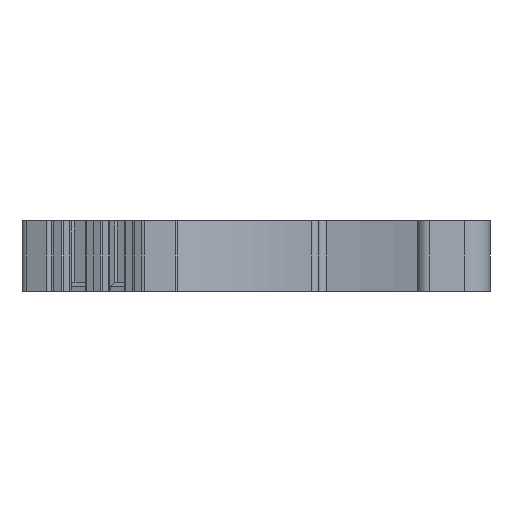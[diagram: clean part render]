
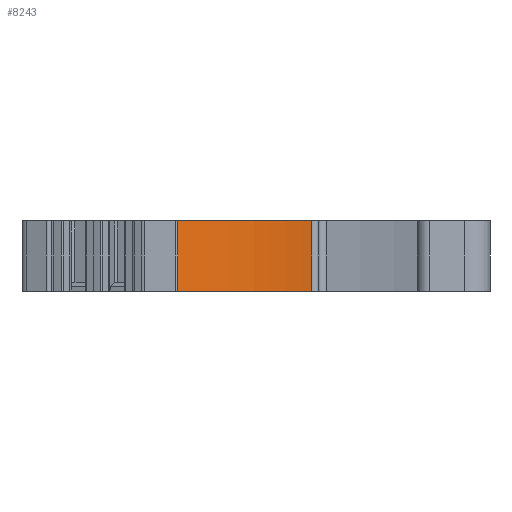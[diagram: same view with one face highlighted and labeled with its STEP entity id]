
A CAD part, left-side view. The second image highlights one B-rep face of the part: STEP entity #8243.
In plain terms, the highlighted cylindrical face has radius 20 mm (diameter 40 mm), a partial arc.
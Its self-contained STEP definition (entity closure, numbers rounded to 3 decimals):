
#1840=CARTESIAN_POINT('Vertex',(-44.699,6.233,0.)) ;
#1843=CARTESIAN_POINT('Axis2P3D Location',(-64.655,7.553,0.)) ;
#1847=CARTESIAN_POINT('Vertex',(-44.664,6.95,0.)) ;
#1850=CARTESIAN_POINT('Axis2P3D Location',(-64.655,7.553,0.)) ;
#1854=CARTESIAN_POINT('Vertex',(-44.866,10.45,0.)) ;
#1857=CARTESIAN_POINT('Axis2P3D Location',(-64.655,7.553,0.)) ;
#1861=CARTESIAN_POINT('Vertex',(-46.504,15.951,0.)) ;
#3444=CARTESIAN_POINT('Vertex',(-46.504,15.951,5.1)) ;
#3447=CARTESIAN_POINT('Axis2P3D Location',(-64.655,7.553,5.1)) ;
#3451=CARTESIAN_POINT('Vertex',(-44.866,10.45,5.1)) ;
#3454=CARTESIAN_POINT('Axis2P3D Location',(-64.655,7.553,5.1)) ;
#3458=CARTESIAN_POINT('Vertex',(-44.664,6.95,5.1)) ;
#3461=CARTESIAN_POINT('Axis2P3D Location',(-64.655,7.553,5.1)) ;
#3465=CARTESIAN_POINT('Vertex',(-44.699,6.233,5.1)) ;
#8211=CARTESIAN_POINT('Line Origine',(-44.699,6.233,2.55)) ;
#8223=CARTESIAN_POINT('Axis2P3D Location',(-64.655,7.553,2.55)) ;
#8228=CARTESIAN_POINT('Line Origine',(-46.504,15.951,2.55)) ;
#1844=DIRECTION('Axis2P3D Direction',(0.,0.,-1.)) ;
#1851=DIRECTION('Axis2P3D Direction',(0.,0.,-1.)) ;
#1858=DIRECTION('Axis2P3D Direction',(0.,0.,-1.)) ;
#3448=DIRECTION('Axis2P3D Direction',(0.,0.,-1.)) ;
#3455=DIRECTION('Axis2P3D Direction',(0.,0.,-1.)) ;
#3462=DIRECTION('Axis2P3D Direction',(0.,0.,-1.)) ;
#8212=DIRECTION('Vector Direction',(0.,0.,-1.)) ;
#8224=DIRECTION('Axis2P3D Direction',(0.,0.,-1.)) ;
#8225=DIRECTION('Axis2P3D XDirection',(0.908,0.42,0.)) ;
#8229=DIRECTION('Vector Direction',(0.,0.,-1.)) ;
#1845=AXIS2_PLACEMENT_3D('Circle Axis2P3D',#1843,#1844,$) ;
#1852=AXIS2_PLACEMENT_3D('Circle Axis2P3D',#1850,#1851,$) ;
#1859=AXIS2_PLACEMENT_3D('Circle Axis2P3D',#1857,#1858,$) ;
#3449=AXIS2_PLACEMENT_3D('Circle Axis2P3D',#3447,#3448,$) ;
#3456=AXIS2_PLACEMENT_3D('Circle Axis2P3D',#3454,#3455,$) ;
#3463=AXIS2_PLACEMENT_3D('Circle Axis2P3D',#3461,#3462,$) ;
#8226=AXIS2_PLACEMENT_3D('Cylinder Axis2P3D',#8223,#8224,#8225) ;
#8234=ORIENTED_EDGE('',*,*,#1856,.T.) ;
#8235=ORIENTED_EDGE('',*,*,#1849,.F.) ;
#8236=ORIENTED_EDGE('',*,*,#8215,.T.) ;
#8237=ORIENTED_EDGE('',*,*,#3467,.T.) ;
#8238=ORIENTED_EDGE('',*,*,#3460,.F.) ;
#8239=ORIENTED_EDGE('',*,*,#3453,.T.) ;
#8240=ORIENTED_EDGE('',*,*,#8232,.F.) ;
#8241=ORIENTED_EDGE('',*,*,#1863,.F.) ;
#8213=VECTOR('Line Direction',#8212,1.) ;
#8230=VECTOR('Line Direction',#8229,1.) ;
#8243=ADVANCED_FACE('',(#8242),#8227,.F.) ;
#1846=CIRCLE('generated circle',#1845,20.) ;
#1853=CIRCLE('generated circle',#1852,20.) ;
#1860=CIRCLE('generated circle',#1859,20.) ;
#3450=CIRCLE('generated circle',#3449,20.) ;
#3457=CIRCLE('generated circle',#3456,20.) ;
#3464=CIRCLE('generated circle',#3463,20.) ;
#8227=CYLINDRICAL_SURFACE('generated cylinder',#8226,20.) ;
#1849=EDGE_CURVE('',#1841,#1848,#1846,.F.) ;
#1856=EDGE_CURVE('',#1855,#1848,#1853,.T.) ;
#1863=EDGE_CURVE('',#1855,#1862,#1860,.F.) ;
#3453=EDGE_CURVE('',#3452,#3445,#3450,.F.) ;
#3460=EDGE_CURVE('',#3452,#3459,#3457,.T.) ;
#3467=EDGE_CURVE('',#3466,#3459,#3464,.F.) ;
#8215=EDGE_CURVE('',#1841,#3466,#8214,.F.) ;
#8232=EDGE_CURVE('',#1862,#3445,#8231,.F.) ;
#8233=EDGE_LOOP('',(#8234,#8235,#8236,#8237,#8238,#8239,#8240,#8241)) ;
#8242=FACE_OUTER_BOUND('',#8233,.T.) ;
#8214=LINE('Line',#8211,#8213) ;
#8231=LINE('Line',#8228,#8230) ;
#1841=VERTEX_POINT('',#1840) ;
#1848=VERTEX_POINT('',#1847) ;
#1855=VERTEX_POINT('',#1854) ;
#1862=VERTEX_POINT('',#1861) ;
#3445=VERTEX_POINT('',#3444) ;
#3452=VERTEX_POINT('',#3451) ;
#3459=VERTEX_POINT('',#3458) ;
#3466=VERTEX_POINT('',#3465) ;
